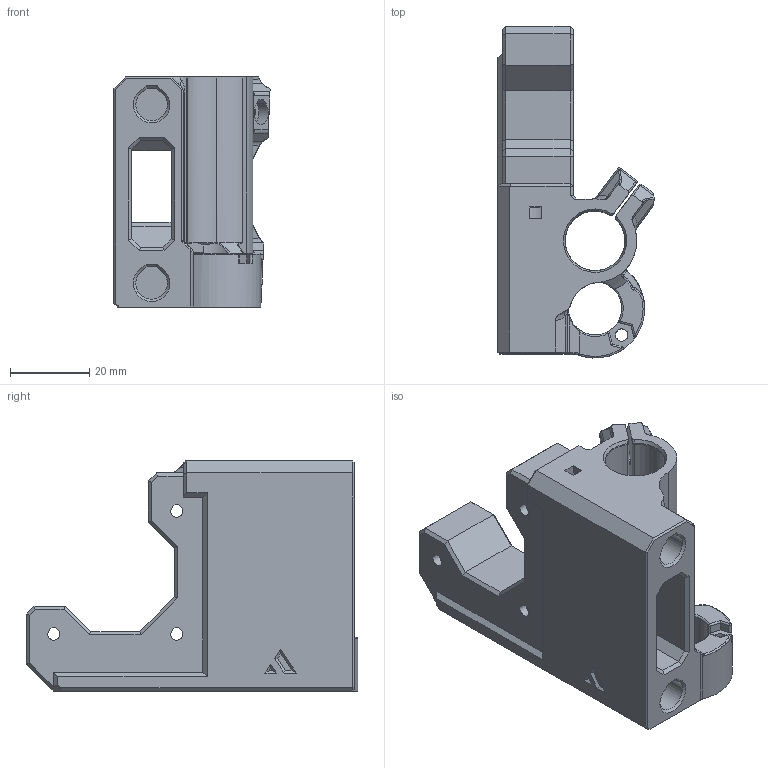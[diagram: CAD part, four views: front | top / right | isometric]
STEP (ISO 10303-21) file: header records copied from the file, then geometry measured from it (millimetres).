
FILE_DESCRIPTION(/* description */ (''),/* implementation_level */ '2;1');
FILE_NAME(/* name */ 'E:/Mihai/3D Printing/My Designs/Pit Stop/Adapted Revised X-Axis/step/X-Motor-3.03 (MK3) v17.step',/* time_stamp */ '2021-01-10T18:49:01+02:00',/* author */ (''),/* organization */ (''),/* preprocessor_version */ 'ST-DEVELOPER v18.1',/* originating_system */ 'Autodesk Translation Framework v9.7.1.1290',/* authorisation */ '');
FILE_SCHEMA (('AUTOMOTIVE_DESIGN { 1 0 10303 214 3 1 1 }'));
Length unit declared in the file: millimetre
Products named in the file (1): X-Motor-3.03 (MK3)
Bounding box: 39.37 x 83.69 x 58 mm (x, y, z)
Volume: 55954.2 mm3; surface area: 24327.6 mm2
Topology: 1 solids, 1 shells, 560 faces, 1440 edges, 868 vertices
Faces by surface type: plane 287, cylinder 126, bspline 95, sphere 19, torus 17, cone 16
Full cylindrical faces by diameter (mm): 3.1 x3, 10 x2, 13.4 x1
Entity records: 20246 total; most frequent: CARTESIAN_POINT 7224, ORIENTED_EDGE 2838, DIRECTION 2533, EDGE_CURVE 1419, VERTEX_POINT 868, AXIS2_PLACEMENT_3D 854, LINE 825, VECTOR 825
